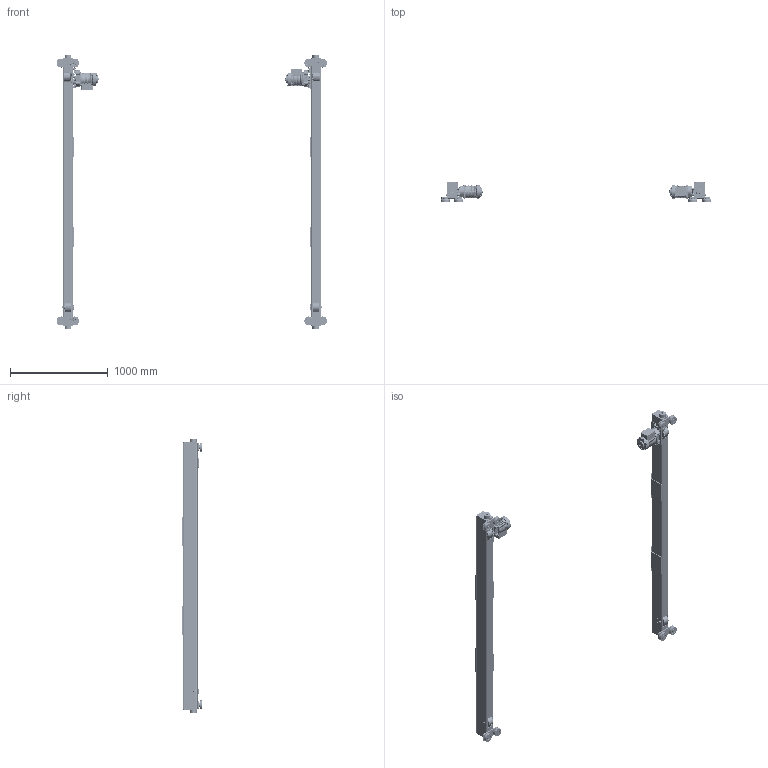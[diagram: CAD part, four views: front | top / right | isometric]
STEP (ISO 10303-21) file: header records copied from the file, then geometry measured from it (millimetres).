
FILE_DESCRIPTION (( 'STEP AP214' ), '1' );
FILE_NAME ('MTMS-3-0160.STEP', '2026-08-14T12:53:17', ( '' ), ( '' ), 'SwSTEP 2.0', 'SolidWorks 2026', '' );
FILE_SCHEMA (( 'AUTOMOTIVE_DESIGN' ));
Length unit declared in the file: millimetre
Products named in the file (64): 6240805X_6240805A; 62418_6241802; 62416_6241602; G1JE025S9503; G1JE025S9604; 9093327_9093327; G1JE025S9303; 62417_6241702; 62415_6241502; G1JE025S9707; 6240814; 6240822; 62419 LEFT HAND ASSY_6241903; G1JE025S9610; N6QO310E91012; G1JM025S_NORMAL; N6QL210207; G1JE025S9401; N6QO310E9108_N6QO3101108 DOMESTIC; G1JE025S9609; 6240826; 6240823; 9047125_B27.7M - 3AM1-23; 6240803; 6240817X_6240817A; G1JE025S9701; 6240813; 9091273_9091273; 9093330_9093330; 9091254_9091254; 62415 - TUBE_107.125; MTMS-3-0160; N6QO3101101; 6240825; N6QO3101108_N6QO3101108; G1JM025S_ROTATED 180 DEGREES; 9012711_9012711; 9047252_9047252; 6232305; 9093101_9093101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
Assembly tree (198 placements, depth 6):
  MTMS-3-0160
    MTMX-3-0160_MTMX-0160
      62419 LEFT HAND ASSY_6241903
        62417_6241702
          62415_6241502
            62415 - TUBE_107.125
            6240822
            6240823
            6240823
          6240813  x2
          6240806  x2
          T7G117010
          6240802
          6240803
          6240804
          6240817X_6240817B  x2
            6240805X_6240805B
            6232305
        N6QL210207  x2
        N6QO3101108_N6QO3101108  x4
          N6QO310E9108_N6QO3101108 DOMESTIC
          9047252_9047252
          9000605
        9047125_B27.7M - 3AM1-23  x4
        9093101_9093101  x2
        9012514_9012514  x2
        9012711_9012711  x5
        6240825
        6240826
        9093327_9093327  x3
        6240814  x2
        N6QO3101102
          N6Q0310E9102_Domestic
          9000705  x2
        N6QO3101101
          N6QO310E91012
          9000705  x2
      62419 RIGHT HAND ASSY_6241904
        62418_6241802
          62416_6241602
            62415 - TUBE_107.125
            6240822
            6240823
            6240823
          T7G117010
          6240802
          6240803
          6240804
          6240817X_6240817A  x2
            6240805X_6240805A
            6232305
          6240806  x2
          6240813  x2
        N6QL210207  x2
        9012711_9012711  x5
        9012514_9012514  x2
        9093101_9093101  x2
        N6QO3101108_N6QO3101108  x4
          N6QO310E9108_N6QO3101108 DOMESTIC
          9047252_9047252
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Bounding box: 2770.76 x 210.99 x 2818.03 mm (x, y, z)
Volume: 28634133.3 mm3; surface area: 7921839.9 mm2
Topology: 198 solids, 262 shells, 14999 faces, 38856 edges, 24994 vertices
Faces by surface type: plane 8203, cylinder 3378, bspline 1802, torus 788, cone 654, sphere 174
Entity records: 163271 total; most frequent: CARTESIAN_POINT 67682, ORIENTED_EDGE 20160, DIRECTION 18638, EDGE_CURVE 10084, AXIS2_PLACEMENT_3D 7127, VERTEX_POINT 6423, EDGE_LOOP 4429, VECTOR 4384
